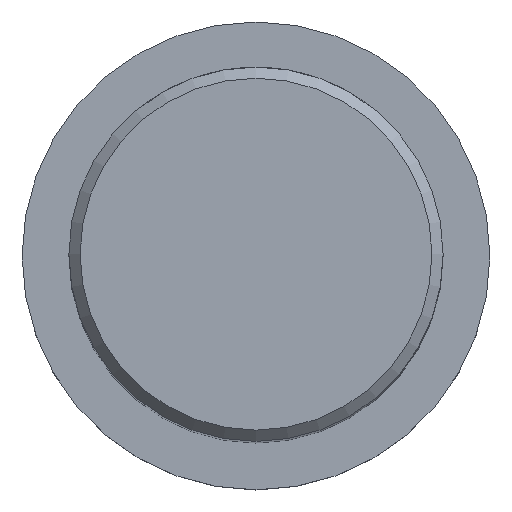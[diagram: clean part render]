
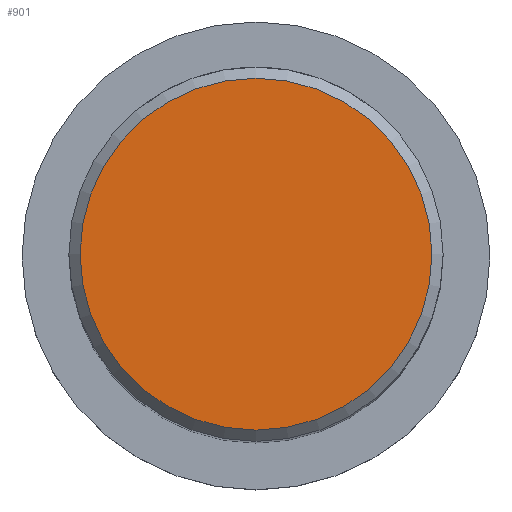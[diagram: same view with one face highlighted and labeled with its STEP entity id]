
A CAD part, top view. The second image highlights one B-rep face of the part: STEP entity #901.
In plain terms, the highlighted planar face has unit normal (0, 0, 1).
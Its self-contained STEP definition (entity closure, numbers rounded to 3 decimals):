
#84 = CONICAL_SURFACE('',#85,5.,0.785);
#85 = AXIS2_PLACEMENT_3D('',#86,#87,#88);
#86 = CARTESIAN_POINT('',(0.,0.,32.2));
#87 = DIRECTION('',(-0.,-0.,-1.));
#88 = DIRECTION('',(1.,0.,0.));
#530 = VERTEX_POINT('',#531);
#531 = CARTESIAN_POINT('',(4.7,0.,32.5));
#552 = EDGE_CURVE('',#530,#530,#553,.T.);
#553 = SURFACE_CURVE('',#554,(#559,#566),.PCURVE_S1.);
#554 = CIRCLE('',#555,4.7);
#555 = AXIS2_PLACEMENT_3D('',#556,#557,#558);
#556 = CARTESIAN_POINT('',(0.,0.,32.5));
#557 = DIRECTION('',(0.,0.,1.));
#558 = DIRECTION('',(1.,0.,-0.));
#559 = PCURVE('',#84,#560);
#560 = DEFINITIONAL_REPRESENTATION('',(#561),#565);
#561 = LINE('',#562,#563);
#562 = CARTESIAN_POINT('',(-0.,-0.3));
#563 = VECTOR('',#564,1.);
#564 = DIRECTION('',(-1.,-0.));
#565 = ( GEOMETRIC_REPRESENTATION_CONTEXT(2) 
PARAMETRIC_REPRESENTATION_CONTEXT() REPRESENTATION_CONTEXT('2D SPACE',''
  ) );
#566 = PCURVE('',#567,#572);
#567 = PLANE('',#568);
#568 = AXIS2_PLACEMENT_3D('',#569,#570,#571);
#569 = CARTESIAN_POINT('',(0.,0.,32.5));
#570 = DIRECTION('',(0.,0.,1.));
#571 = DIRECTION('',(1.,0.,-0.));
#572 = DEFINITIONAL_REPRESENTATION('',(#573),#577);
#573 = CIRCLE('',#574,4.7);
#574 = AXIS2_PLACEMENT_2D('',#575,#576);
#575 = CARTESIAN_POINT('',(0.,0.));
#576 = DIRECTION('',(1.,0.));
#577 = ( GEOMETRIC_REPRESENTATION_CONTEXT(2) 
PARAMETRIC_REPRESENTATION_CONTEXT() REPRESENTATION_CONTEXT('2D SPACE',''
  ) );
#901 = ADVANCED_FACE('',(#902),#567,.T.);
#902 = FACE_BOUND('',#903,.T.);
#903 = EDGE_LOOP('',(#904));
#904 = ORIENTED_EDGE('',*,*,#552,.T.);
